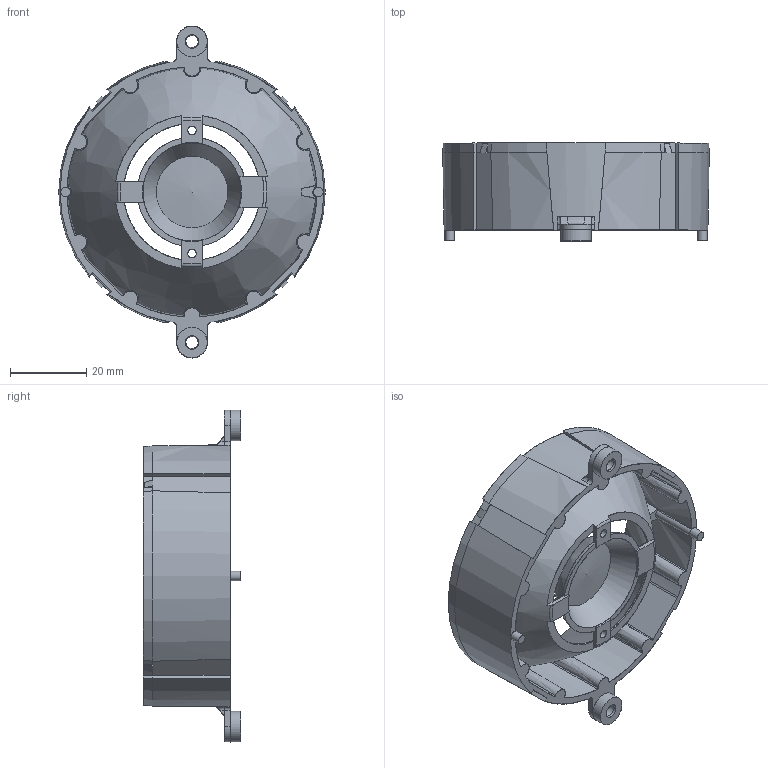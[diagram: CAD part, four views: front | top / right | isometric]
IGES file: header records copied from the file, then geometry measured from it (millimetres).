
Start section: Missler Software BP 521, 31674 Labege Cedex, France Tel   : +33 (0)5 61 00 03 00 Fax   : +33 (0)5 61 00 03 03 Email : sup.topsolid@topsolid.com
Global section: file name: C:\TEMP\LLR05N11AA1 for mechanical use only.igs; native system: TopSolid v609200 Missler Software; preprocessor: IGES preprocessor v100000; author: LAURET JP; date: 120412.101837; units: millimetre
Bounding box: 69.91 x 25.62 x 87.1 mm (x, y, z)
Surface area: 20699 mm2 (no closed solid volume)
Topology: 0 solids, 0 shells, 290 faces, 2652 edges, 2647 vertices
Faces by surface type: bspline 290
